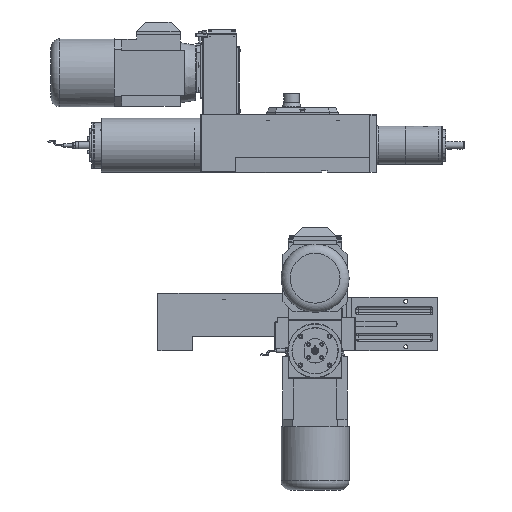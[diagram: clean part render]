
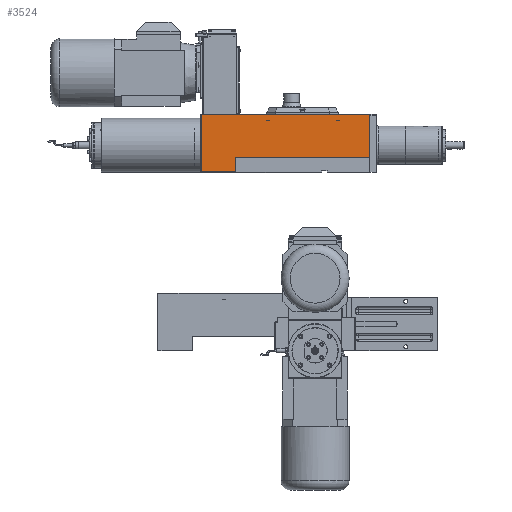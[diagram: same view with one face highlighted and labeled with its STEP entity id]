
A CAD part, front view. The second image highlights one B-rep face of the part: STEP entity #3524.
In plain terms, the highlighted planar face has unit normal (0, -1, 0).
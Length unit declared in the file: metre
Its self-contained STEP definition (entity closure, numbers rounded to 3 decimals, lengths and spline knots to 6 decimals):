
#3524 = ADVANCED_FACE( '', ( #5459 ), #5460, .T. );
#5459 = FACE_OUTER_BOUND( '', #8529, .T. );
#5460 = PLANE( '', #8530 );
#8529 = EDGE_LOOP( '', ( #15271, #15272, #15273, #15274, #15275, #15276 ) );
#8530 = AXIS2_PLACEMENT_3D( '', #15277, #15278, #15279 );
#15271 = ORIENTED_EDGE( '', *, *, #20118, .F. );
#15272 = ORIENTED_EDGE( '', *, *, #20157, .F. );
#15273 = ORIENTED_EDGE( '', *, *, #20166, .F. );
#15274 = ORIENTED_EDGE( '', *, *, #20156, .F. );
#15275 = ORIENTED_EDGE( '', *, *, #20154, .T. );
#15276 = ORIENTED_EDGE( '', *, *, #20119, .T. );
#15277 = CARTESIAN_POINT( '', ( 0.025, -0.019444, 0. ) );
#15278 = DIRECTION( '', ( 0., -1., 0. ) );
#15279 = DIRECTION( '', ( 0., 0., -1. ) );
#20118 = EDGE_CURVE( '', #23178, #23176, #23180, .T. );
#20119 = EDGE_CURVE( '', #23181, #23176, #23182, .T. );
#20154 = EDGE_CURVE( '', #23243, #23181, #23244, .T. );
#20156 = EDGE_CURVE( '', #23243, #23151, #23246, .T. );
#20157 = EDGE_CURVE( '', #23207, #23178, #23247, .T. );
#20166 = EDGE_CURVE( '', #23151, #23207, #23259, .T. );
#23151 = VERTEX_POINT( '', #28406 );
#23176 = VERTEX_POINT( '', #28442 );
#23178 = VERTEX_POINT( '', #28445 );
#23180 = LINE( '', #28448, #28449 );
#23181 = VERTEX_POINT( '', #28450 );
#23182 = LINE( '', #28451, #28452 );
#23207 = VERTEX_POINT( '', #28481 );
#23243 = VERTEX_POINT( '', #28538 );
#23244 = LINE( '', #28539, #28540 );
#23246 = LINE( '', #28543, #28544 );
#23247 = LINE( '', #28545, #28546 );
#23259 = LINE( '', #28564, #28565 );
#28406 = CARTESIAN_POINT( '', ( -0.3465, -0.019444, 0.0005 ) );
#28442 = CARTESIAN_POINT( '', ( 0.0245, -0.019444, 0.032 ) );
#28445 = CARTESIAN_POINT( '', ( 0.0245, -0.019444, 0.1265 ) );
#28448 = CARTESIAN_POINT( '', ( 0.0245, -0.019444, 0. ) );
#28449 = VECTOR( '', #34561, 1. );
#28450 = CARTESIAN_POINT( '', ( -0.271, -0.019444, 0.032 ) );
#28451 = CARTESIAN_POINT( '', ( -0.049, -0.019444, 0.032 ) );
#28452 = VECTOR( '', #34562, 1. );
#28481 = CARTESIAN_POINT( '', ( -0.3465, -0.019444, 0.1265 ) );
#28538 = CARTESIAN_POINT( '', ( -0.271, -0.019444, 0.0005 ) );
#28539 = CARTESIAN_POINT( '', ( -0.271, -0.019444, 0. ) );
#28540 = VECTOR( '', #34615, 1. );
#28543 = CARTESIAN_POINT( '', ( -0.068, -0.019444, 0.0005 ) );
#28544 = VECTOR( '', #34617, 1. );
#28545 = CARTESIAN_POINT( '', ( -0.068, -0.019444, 0.1265 ) );
#28546 = VECTOR( '', #34618, 1. );
#28564 = CARTESIAN_POINT( '', ( -0.3465, -0.019444, 0. ) );
#28565 = VECTOR( '', #34631, 1. );
#34561 = DIRECTION( '', ( 0., 0., -1. ) );
#34562 = DIRECTION( '', ( 1., 0., 0. ) );
#34615 = DIRECTION( '', ( 0., 0., 1. ) );
#34617 = DIRECTION( '', ( -1., 0., 0. ) );
#34618 = DIRECTION( '', ( 1., 0., 0. ) );
#34631 = DIRECTION( '', ( 0., 0., 1. ) );
